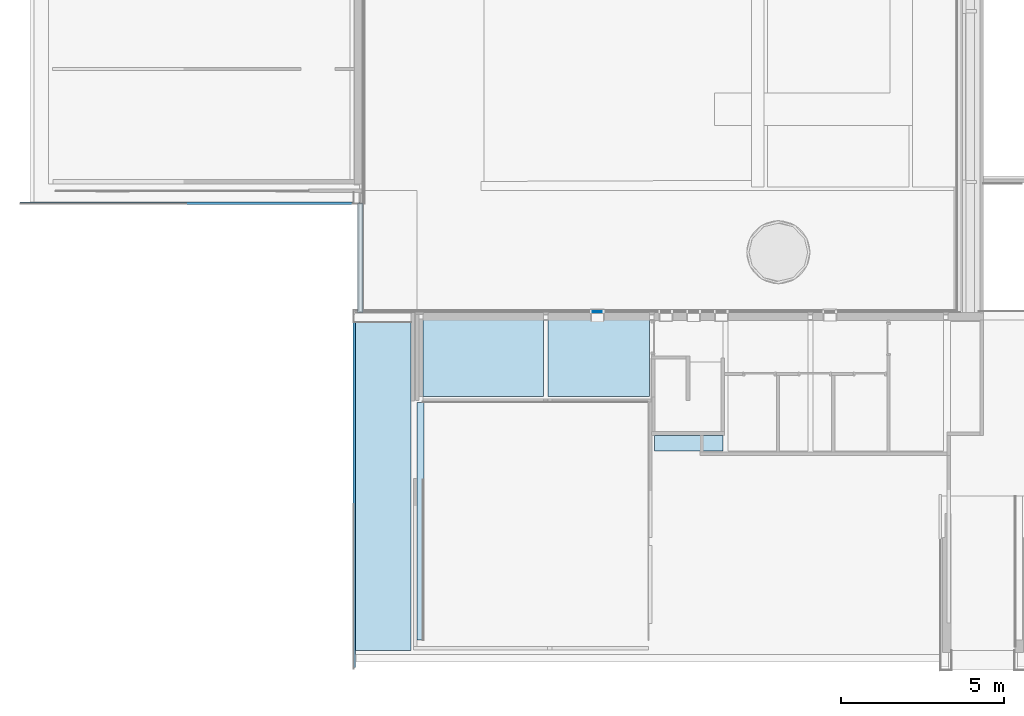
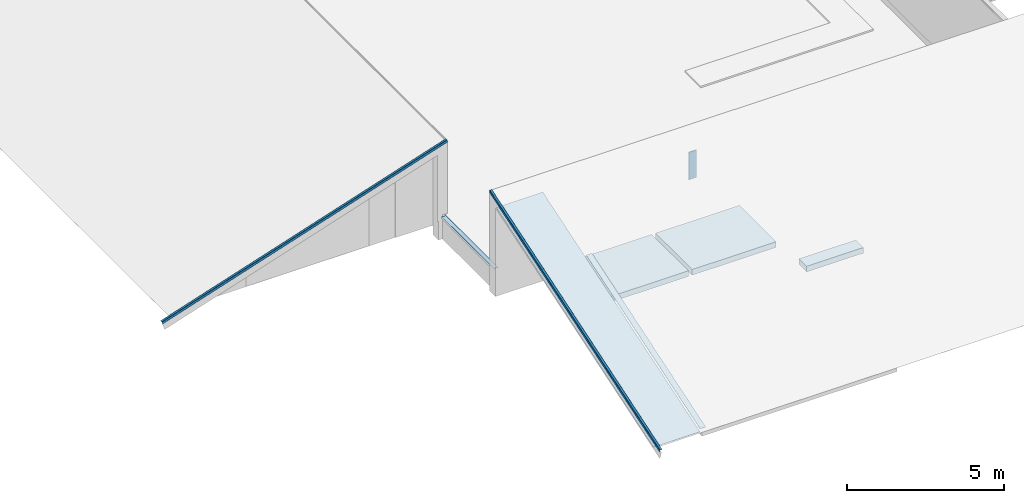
# One storey, part 9 of 66: 8 slabs, 1 plate, 5 elements without a shape of their own.
"""IFC2X3 building model written with IfcOpenShell, lengths in millimetres."""

import ifcopenshell
import ifcopenshell.guid

model = None  # the IFC model being written
_history = None  # IfcOwnerHistory: only IFC2X3 demands one
_inside = {}  # id of a spatial element -> (the spatial element, [elements in it])
_under = {}  # id of a project, library or spatial element -> (it, [spatial elements below it])
_declared = {}  # id of a project -> (the project, [libraries it declares])
_typed = {}  # id of a type object -> (the type object, [elements of that type])
_made_of = {}  # id of a material, layer set ... -> (it, [elements and type objects made of it])


def new_model(schema):
    """Start an empty IFC model of exactly this schema.

    Asked for "IFC4X3", IfcOpenShell would pick the latest addendum, in which some entities
    have other attributes; the version numbers below select the first issue.
    IFC2X3 requires an IfcOwnerHistory on every rooted entity: one is made here for all.
    """
    global model, _history
    if schema == "IFC4X3":
        model = ifcopenshell.file(schema_version=(4, 3, 0, 0))
    else:
        model = ifcopenshell.file(schema=schema)
    _inside.clear()
    _under.clear()
    _declared.clear()
    _typed.clear()
    _made_of.clear()
    _history = None
    if model.schema == "IFC2X3":
        org = make("IfcOrganization", Name="unknown")
        user = make(
            "IfcPersonAndOrganization",
            ThePerson=make("IfcPerson", FamilyName="unknown"),
            TheOrganization=org,
        )
        app = make(
            "IfcApplication",
            ApplicationDeveloper=org,
            Version="unknown",
            ApplicationFullName="unknown",
            ApplicationIdentifier="unknown",
        )
        _history = make(
            "IfcOwnerHistory",
            OwningUser=user,
            OwningApplication=app,
            ChangeAction="ADDED",
            CreationDate=0,
        )
    return model


def make(cls, **values):
    """One entity of the class cls with the attributes given. An attribute that is None is left unset."""
    return model.create_entity(
        cls, **{name: value for name, value in values.items() if value is not None}
    )


def entity(cls, *values):
    """Any entity or typed value of the class cls, its attributes in the order of the schema. None: left unset."""
    e = model.create_entity(cls)
    for i, value in enumerate(values):
        if value is not None:
            e[i] = value
    return e


def rooted(cls, **values):
    """An entity with a GlobalId (a new one), such as an element, a storey or a relation."""
    return make(cls, GlobalId=ifcopenshell.guid.new(), OwnerHistory=_history, **values)


def si_unit(unit_type, name, prefix=None):
    """IfcSIUnit, for example si_unit("LENGTHUNIT", "METRE", prefix="MILLI")."""
    return make("IfcSIUnit", UnitType=unit_type, Prefix=prefix, Name=name)


def converted_unit(unit_type, name, factor, base, dimensions=None, offset=None):
    """IfcConversionBasedUnit, such as the inch: factor (a typed value) times the base unit."""
    return make(
        "IfcConversionBasedUnit"
        if offset is None
        else "IfcConversionBasedUnitWithOffset",
        ConversionOffset=offset,
        Dimensions=None
        if dimensions is None
        else entity("IfcDimensionalExponents", *dimensions),
        UnitType=unit_type,
        Name=name,
        ConversionFactor=make(
            "IfcMeasureWithUnit", ValueComponent=factor, UnitComponent=base
        ),
    )


def derived_unit(unit_type, elements):
    """IfcDerivedUnit: a product of units, each with its exponent."""
    return make(
        "IfcDerivedUnit",
        Elements=[
            make("IfcDerivedUnitElement", Unit=unit, Exponent=power)
            for unit, power in elements
        ],
        UnitType=unit_type,
    )


def assignment(units):
    """IfcUnitAssignment: the units of a project."""
    return None if units is None else make("IfcUnitAssignment", Units=units)


def point(xyz):
    """IfcCartesianPoint."""
    return None if xyz is None else make("IfcCartesianPoint", Coordinates=xyz)


def direction(xyz):
    """IfcDirection."""
    return None if xyz is None else make("IfcDirection", DirectionRatios=xyz)


def frame(location, z_axis=None, x_axis=None):
    """IfcAxis2Placement3D, a coordinate frame: its origin and axes. An axis left out is left unset."""
    return make(
        "IfcAxis2Placement3D",
        Location=point(location),
        Axis=direction(z_axis),
        RefDirection=direction(x_axis),
    )


def frame_2d(location, x_axis=None):
    """IfcAxis2Placement2D, a coordinate frame in the plane: its origin and x axis."""
    return make(
        "IfcAxis2Placement2D", Location=point(location), RefDirection=direction(x_axis)
    )


def origin():
    """The frame at (0, 0, 0) with its axes left unset."""
    return frame((0.0, 0.0, 0.0))


def origin_2d_with_axis():
    """The frame at (0, 0) in the plane with the x axis (1, 0) written out."""
    return frame_2d((0.0, 0.0), x_axis=(1.0, 0.0))


def place(relative_to, where):
    """IfcLocalPlacement: puts the frame where relative to a parent placement (None: the world)."""
    return make(
        "IfcLocalPlacement", PlacementRelTo=relative_to, RelativePlacement=where
    )


def context(
    kind, dimensions, precision=None, world=None, true_north=None, identifier=None
):
    """IfcGeometricRepresentationContext, for example the 3D "Model" context."""
    return make(
        "IfcGeometricRepresentationContext",
        ContextIdentifier=identifier,
        ContextType=kind,
        CoordinateSpaceDimension=dimensions,
        Precision=precision,
        WorldCoordinateSystem=world,
        TrueNorth=true_north,
    )


def subcontext(parent, identifier, kind, view, scale=None):
    """IfcGeometricRepresentationSubContext, for example "Body" below "Model"."""
    return make(
        "IfcGeometricRepresentationSubContext",
        ContextIdentifier=identifier,
        ContextType=kind,
        ParentContext=parent,
        TargetScale=scale,
        TargetView=view,
    )


def project(units=None, contexts=None):
    """IfcProject with its units and contexts."""
    return rooted(
        "IfcProject",
        Name="project",
        RepresentationContexts=contexts,
        UnitsInContext=assignment(units),
    )


def spatial(cls, under=None, at=None, **own):
    """A site, building, storey or space (cls), placed at a placement, below another one or the project."""
    s = rooted(cls, ObjectPlacement=at, **own)
    if under is not None:
        _under.setdefault(under.id(), (under, []))[1].append(s)
    return s


def polyline(points):
    """IfcPolyline through the points."""
    return make("IfcPolyline", Points=[point(p) for p in points])


def circle_curve(where, radius):
    """IfcCircle in the frame where."""
    return make("IfcCircle", Position=where, Radius=radius)


def parameter(value):
    """IfcParameterValue: where a trimmed curve begins or ends, as a parameter of its basis curve."""
    return model.create_entity("IfcParameterValue", value)


def trimmed(basis, trim1, trim2, sense, master):
    """IfcTrimmedCurve: the piece of a basis curve between two trims."""
    return make(
        "IfcTrimmedCurve",
        BasisCurve=basis,
        Trim1=trim1,
        Trim2=trim2,
        SenseAgreement=sense,
        MasterRepresentation=master,
    )


def segment(curve, same_sense, transition):
    """IfcCompositeCurveSegment."""
    return make(
        "IfcCompositeCurveSegment",
        Transition=transition,
        SameSense=same_sense,
        ParentCurve=curve,
    )


def composite_curve(segments, self_intersect=None):
    """IfcCompositeCurve: segments joined end to end."""
    return make("IfcCompositeCurve", Segments=segments, SelfIntersect=self_intersect)


def profile(cls, at=None, kind="AREA", **sizes):
    """A parametric profile (cls). Its sizes go by their IFC names, for example OverallWidth=200.0."""
    return make(cls, ProfileType=kind, Position=at, **sizes)


def rectangle(**sizes):
    """IfcRectangleProfileDef."""
    return profile("IfcRectangleProfileDef", **sizes)


def outline(outer, holes=None, kind="AREA"):
    """IfcArbitraryClosedProfileDef: a profile drawn as a closed curve; with holes, ...WithVoids."""
    if holes is None:
        return make("IfcArbitraryClosedProfileDef", ProfileType=kind, OuterCurve=outer)
    return make(
        "IfcArbitraryProfileDefWithVoids",
        ProfileType=kind,
        OuterCurve=outer,
        InnerCurves=holes,
    )


def extrude(swept, where, along, depth):
    """IfcExtrudedAreaSolid: the profile swept, set in the frame where, extruded along a direction by depth."""
    return make(
        "IfcExtrudedAreaSolid",
        SweptArea=swept,
        Position=where,
        ExtrudedDirection=direction(along),
        Depth=depth,
    )


def clip(a, b, op="DIFFERENCE"):
    """IfcBooleanClippingResult: the solid a cut by the half space b."""
    return make(
        "IfcBooleanClippingResult", Operator=op, FirstOperand=a, SecondOperand=b
    )


def halfspace(plane, agree):
    """IfcHalfSpaceSolid: all space on one side of the plane z = 0 of the frame plane."""
    return make(
        "IfcHalfSpaceSolid",
        BaseSurface=make("IfcPlane", Position=plane),
        AgreementFlag=agree,
    )


def shape(context_of_items, identifier, shape_type, items):
    """IfcShapeRepresentation: the items that make up one representation, for example the "Body"."""
    return make(
        "IfcShapeRepresentation",
        ContextOfItems=context_of_items,
        RepresentationIdentifier=identifier,
        RepresentationType=shape_type,
        Items=items,
    )


def source(mapping_origin, context_of_items, identifier, shape_type, items):
    """IfcRepresentationMap: a shape defined once, which mapped items show again and again."""
    return make(
        "IfcRepresentationMap",
        MappingOrigin=mapping_origin,
        MappedRepresentation=shape(context_of_items, identifier, shape_type, items),
    )


def transform(
    local_origin,
    x_axis=None,
    y_axis=None,
    z_axis=None,
    scale=None,
    scale2=None,
    scale3=None,
    uniform=True,
):
    """IfcCartesianTransformationOperator3D, or its non-uniform kind. x_axis, y_axis, z_axis: its Axis1, 2, 3."""
    if uniform:
        return make(
            "IfcCartesianTransformationOperator3D",
            Axis1=direction(x_axis),
            Axis2=direction(y_axis),
            LocalOrigin=point(local_origin),
            Scale=scale,
            Axis3=direction(z_axis),
        )
    return make(
        "IfcCartesianTransformationOperator3DnonUniform",
        Axis1=direction(x_axis),
        Axis2=direction(y_axis),
        LocalOrigin=point(local_origin),
        Scale=scale,
        Axis3=direction(z_axis),
        Scale2=scale2,
        Scale3=scale3,
    )


def mapped(mapping_source, mapping_target):
    """IfcMappedItem: shows the shape of a source again, moved by a transform."""
    return make(
        "IfcMappedItem", MappingSource=mapping_source, MappingTarget=mapping_target
    )


def material(Name=None, Category=None):
    """IfcMaterial."""
    return make("IfcMaterial", Name=Name, Category=Category)


def material_list(materials):
    """IfcMaterialList."""
    return make("IfcMaterialList", Materials=materials)


def layer(
    of_material, thickness, ventilated=None, Name=None, Category=None, Priority=None
):
    """IfcMaterialLayer: one layer of a wall or slab, of a material (None: an air gap)."""
    return make(
        "IfcMaterialLayer",
        Material=of_material,
        LayerThickness=thickness,
        IsVentilated=ventilated,
        Name=Name,
        Category=Category,
        Priority=Priority,
    )


def layer_set(layers, Name=None):
    """IfcMaterialLayerSet."""
    return make("IfcMaterialLayerSet", MaterialLayers=layers, LayerSetName=Name)


def layer_usage(for_layer_set, set_direction, sense, offset, extent=None):
    """IfcMaterialLayerSetUsage: how a layer set lies in its element."""
    return make(
        "IfcMaterialLayerSetUsage",
        ForLayerSet=for_layer_set,
        LayerSetDirection=set_direction,
        DirectionSense=sense,
        OffsetFromReferenceLine=offset,
        ReferenceExtent=extent,
    )


def made_of(thing, what):
    """Note that an element or type object is made of a material, layer set ...; save() writes the relation."""
    if what is not None:
        _made_of.setdefault(what.id(), (what, []))[1].append(thing)
    return thing


def type_object(cls, material=None, **own):
    """A type object (cls), such as IfcWallType, which elements share."""
    return made_of(rooted(cls, **own), material)


def type_shapes(of_type, sources):
    """Give a type object the sources (RepresentationMaps) that its elements show as mapped items."""
    of_type.RepresentationMaps = sources


def element(
    cls,
    number,
    at=None,
    inside=None,
    cuts=None,
    type_object=None,
    material=None,
    context=None,
    identifier="Body",
    shape_type=None,
    held_by="IfcProductDefinitionShape",
    body=None,
    shapes=None,
    **own,
):
    """One element of the class cls, such as IfcWall. Its Tag is "e" and its number.

    at: its placement. inside: the storey or other place that contains it. cuts: it is an
    opening in that element (IfcRelVoidsElement). A single representation is given by context,
    identifier, shape_type and body (its items); several are given by shapes. held_by: the class
    of the entity that holds the representations. save() writes the other relations.
    """
    e = rooted(cls, Tag="e%d" % number, ObjectPlacement=at, **own)
    if body is not None:
        shapes = [shape(context, identifier, shape_type, body)]
    if shapes is not None:
        e.Representation = make(held_by, Representations=shapes)
    if inside is not None:
        _inside.setdefault(inside.id(), (inside, []))[1].append(e)
    if cuts is not None:
        rooted(
            "IfcRelVoidsElement", RelatingBuildingElement=cuts, RelatedOpeningElement=e
        )
    if type_object is not None:
        _typed.setdefault(type_object.id(), (type_object, []))[1].append(e)
    return made_of(e, material)


def aggregate(whole, parts):
    """IfcRelAggregates: a whole, such as a stair, and the parts it consists of."""
    return rooted("IfcRelAggregates", RelatingObject=whole, RelatedObjects=parts)


def save(model, path):
    """Write the relations noted so far, then the file.

    IfcRelAggregates (storeys below a building ...), IfcRelContainedInSpatialStructure (elements
    in a storey), IfcRelDefinesByType, IfcRelAssociatesMaterial and IfcRelDeclares: one each for
    every whole, place, type object, material and project.
    """
    for whole, parts in _under.values():
        aggregate(whole, parts)
    for where, things in _inside.values():
        rooted(
            "IfcRelContainedInSpatialStructure",
            RelatedElements=things,
            RelatingStructure=where,
        )
    for kind, things in _typed.values():
        rooted("IfcRelDefinesByType", RelatedObjects=things, RelatingType=kind)
    for what, things in _made_of.values():
        rooted("IfcRelAssociatesMaterial", RelatedObjects=things, RelatingMaterial=what)
    for by, libraries in _declared.values():
        rooted("IfcRelDeclares", RelatingContext=by, RelatedDefinitions=libraries)
    model.write(path)


model = new_model("IFC2X3")

# Units and contexts
model_context = context("Model", 3, precision=0.01, world=origin(), true_north=direction((6.12303176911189e-17, 1.0)))
body_context = subcontext(model_context, "Body", "Model", "MODEL_VIEW")
ifc_project = project(units=[si_unit("LENGTHUNIT", "METRE", prefix="MILLI"), si_unit("AREAUNIT", "SQUARE_METRE"), si_unit("VOLUMEUNIT", "CUBIC_METRE"), converted_unit("PLANEANGLEUNIT", "DEGREE", entity("IfcRatioMeasure", 0.0174532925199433), si_unit("PLANEANGLEUNIT", "RADIAN"), dimensions=[0, 0, 0, 0, 0, 0, 0]), si_unit("MASSUNIT", "GRAM", prefix="KILO"), derived_unit("MASSDENSITYUNIT", [(si_unit("MASSUNIT", "GRAM", prefix="KILO"), 1), (si_unit("LENGTHUNIT", "METRE"), -3)]), derived_unit("MOMENTOFINERTIAUNIT", [(si_unit("LENGTHUNIT", "METRE"), 4)]), si_unit("TIMEUNIT", "SECOND"), si_unit("FREQUENCYUNIT", "HERTZ"), si_unit("THERMODYNAMICTEMPERATUREUNIT", "DEGREE_CELSIUS"), derived_unit("THERMALTRANSMITTANCEUNIT", [(si_unit("MASSUNIT", "GRAM", prefix="KILO"), 1), (si_unit("THERMODYNAMICTEMPERATUREUNIT", "KELVIN"), -1), (si_unit("TIMEUNIT", "SECOND"), -3)]), derived_unit("VOLUMETRICFLOWRATEUNIT", [(si_unit("LENGTHUNIT", "METRE"), 3), (si_unit("TIMEUNIT", "SECOND"), -1)]), si_unit("ELECTRICCURRENTUNIT", "AMPERE"), si_unit("ELECTRICVOLTAGEUNIT", "VOLT"), si_unit("POWERUNIT", "WATT"), si_unit("FORCEUNIT", "NEWTON", prefix="KILO"), si_unit("ILLUMINANCEUNIT", "LUX"), si_unit("LUMINOUSFLUXUNIT", "LUMEN"), si_unit("LUMINOUSINTENSITYUNIT", "CANDELA"), derived_unit("USERDEFINED", [(si_unit("MASSUNIT", "GRAM", prefix="KILO"), -1), (si_unit("LENGTHUNIT", "METRE"), -2), (si_unit("TIMEUNIT", "SECOND"), 3), (si_unit("LUMINOUSFLUXUNIT", "LUMEN"), 1)]), derived_unit("LINEARVELOCITYUNIT", [(si_unit("LENGTHUNIT", "METRE"), 1), (si_unit("TIMEUNIT", "SECOND"), -1)]), si_unit("PRESSUREUNIT", "PASCAL"), derived_unit("USERDEFINED", [(si_unit("LENGTHUNIT", "METRE"), -2), (si_unit("MASSUNIT", "GRAM", prefix="KILO"), 1), (si_unit("TIMEUNIT", "SECOND"), -2)]), derived_unit("LINEARFORCEUNIT", [(si_unit("MASSUNIT", "GRAM", prefix="KILO"), 1), (si_unit("LENGTHUNIT", "METRE"), 1), (si_unit("TIMEUNIT", "SECOND"), -2), (si_unit("LENGTHUNIT", "METRE"), -1)]), derived_unit("PLANARFORCEUNIT", [(si_unit("MASSUNIT", "GRAM", prefix="KILO"), 1), (si_unit("LENGTHUNIT", "METRE"), 1), (si_unit("TIMEUNIT", "SECOND"), -2), (si_unit("LENGTHUNIT", "METRE"), -2)])], contexts=[model_context])

# Site, building, storey
site_placement = place(None, origin())
site = spatial("IfcSite", under=ifc_project, at=site_placement, Name="Default", CompositionType="ELEMENT")
building_placement = place(site_placement, origin())
building = spatial("IfcBuilding", under=site, at=building_placement, Name="-", CompositionType="ELEMENT")
storey_placement = place(building_placement, frame((0.0, 0.0, 3070.0)))
storey = spatial("IfcBuildingStorey", under=building, at=storey_placement, Name="01 eerste verdieping", CompositionType="ELEMENT", Elevation=3070.00000000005)

# Curtain wall, plate
curtain_wall_type = type_object("IfcCurtainWallType", Name="Curtain Wall:NLRS_31_WIN_UN_houten kozijn vrij indeelbaar_gen_aly", PredefinedType="NOTDEFINED")
curtain_wall_placement = place(storey_placement, frame((0.0, 0.0, -3070.0)))
curtain_wall = element("IfcCurtainWall", 1, at=curtain_wall_placement, inside=storey, type_object=curtain_wall_type, Name="Curtain Wall:NLRS_31_WIN_UN_houten kozijn vrij indeelbaar_gen_aly", ObjectType="Curtain Wall:NLRS_31_WIN_UN_houten kozijn vrij indeelbaar_gen_aly")
ifc_material_1 = material(Name="NLRS_o5_glas")
plate_type = type_object("IfcPlateType", Name="System Panel:31_Geïsoleerd glas 25mm", PredefinedType="CURTAIN_PANEL", material=ifc_material_1)
shared_shape = source(origin(), body_context, "Body", "SweptSolid", [
    extrude(rectangle(XDim=25.0, YDim=278.000000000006, at=origin_2d_with_axis()), frame((0.0, 0.0, 0.0), z_axis=(0.0, 0.0, 1.0), x_axis=(0.0, 1.0, 0.0)), (0.0, 0.0, 1.0), 1077.00000000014),
])
type_shapes(plate_type, [shared_shape])
plate_placement = place(curtain_wall_placement, frame((16965.0, 10417.1240954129, 4497.0)))
plate = element("IfcPlate", 2, at=plate_placement, type_object=plate_type, material=ifc_material_1, Name="System Panel:31_Geïsoleerd glas 25mm", ObjectType="System Panel:31_Geïsoleerd glas 25mm", context=body_context, shape_type="MappedRepresentation", body=[
    mapped(shared_shape, transform((0.0, 0.0, 0.0), scale=1.0)),
])
aggregate(curtain_wall, [plate])

# Slabs
ifc_material_2 = material(Name="NLRS_i2_hout naaldhout vuren_gen")
ifc_layer_1 = layer(ifc_material_2, 221.0)
ifc_layer_set_1 = layer_set([ifc_layer_1], Name="Floor:NLRS_23_FL_Houten balk laag 221mm")
ifc_layer_usage_1 = layer_usage(ifc_layer_set_1, "AXIS3", "POSITIVE", 0.0)
slab_type_1 = type_object("IfcSlabType", Name="Floor:NLRS_23_FL_Houten balk laag 221mm", PredefinedType="FLOOR", material=ifc_layer_set_1)
slab_1_placement = place(storey_placement, origin())
element("IfcSlab", 3, at=slab_1_placement, inside=storey, type_object=slab_type_1, material=ifc_layer_usage_1, Name="Floor:NLRS_23_FL_Houten balk laag 221mm", ObjectType="Floor:NLRS_23_FL_Houten balk laag 221mm", PredefinedType="FLOOR", context=body_context, shape_type="SweptSolid", body=[
    extrude(rectangle(XDim=2343.20603185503, YDim=3690.0444211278, at=frame_2d((-1.13686837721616e-12, 0.0), x_axis=(1.0, 0.0))), frame((13471.5326393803, 8992.02107947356, -18.0), z_axis=(0.0, 0.0, -1.0), x_axis=(0.0, 1.0, 0.0)), (0.0, 0.0, 1.0), 221.0),
])
ifc_layer_usage_2 = layer_usage(ifc_layer_set_1, "AXIS3", "POSITIVE", 0.0)
slab_type_2 = type_object("IfcSlabType", Name="Floor:NLRS_23_FL_Houten balk laag 221mm", PredefinedType="FLOOR", material=ifc_layer_set_1)
slab_2_placement = place(storey_placement, origin())
element("IfcSlab", 4, at=slab_2_placement, inside=storey, type_object=slab_type_2, material=ifc_layer_usage_2, Name="Floor:NLRS_23_FL_Houten balk laag 221mm", ObjectType="Floor:NLRS_23_FL_Houten balk laag 221mm", PredefinedType="FLOOR", context=body_context, shape_type="SweptSolid", body=[
    extrude(rectangle(XDim=2343.20603185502, YDim=3096.13998439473, at=frame_2d((0.0, -1.13686837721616e-12), x_axis=(1.0, 0.0))), frame((17004.6248421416, 8992.02107947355, -18.0), z_axis=(0.0, 0.0, -1.0), x_axis=(0.0, 1.0, 0.0)), (0.0, 0.0, 1.0), 221.0),
])
ifc_layer_usage_3 = layer_usage(ifc_layer_set_1, "AXIS3", "POSITIVE", 0.0)
slab_type_3 = type_object("IfcSlabType", Name="Floor:NLRS_23_FL_Houten balk laag 221mm", PredefinedType="FLOOR", material=ifc_layer_set_1)
slab_3_placement = place(storey_placement, origin())
element("IfcSlab", 5, at=slab_3_placement, inside=storey, type_object=slab_type_3, material=ifc_layer_usage_3, Name="Floor:NLRS_23_FL_Houten balk laag 221mm", ObjectType="Floor:NLRS_23_FL_Houten balk laag 221mm", PredefinedType="FLOOR", context=body_context, shape_type="SweptSolid", body=[
    extrude(rectangle(XDim=488.562482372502, YDim=2093.49999999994, at=frame_2d((0.0, -3.18323145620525e-12), x_axis=(1.0, 0.0))), frame((19758.444834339, 6392.44712110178, -18.0), z_axis=(0.0, 0.0, -1.0), x_axis=(0.0, 1.0, 0.0)), (0.0, 0.0, 1.0), 221.0),
])

# Roof, slab
ifc_material_3 = material(Name="AL_Aluminium")
ifc_material_4 = material(Name="AL_31_Naaldhout (vuren)")
ifc_material_5 = material(Name="h7_zink zwart")
ifc_material_list_1 = material_list([ifc_material_3, ifc_material_4, ifc_material_5])
roof_1_placement = place(storey_placement, origin())
roof_1 = element("IfcRoof", 6, at=roof_1_placement, inside=storey, material=ifc_material_list_1, Name="Dakrand zijkant dak1:Dakrand zijkant dak", ObjectType="Dakrand zijkant dak1:Dakrand zijkant dak", ShapeType="NOTDEFINED")
ifc_material_list_2 = material_list([ifc_material_3, ifc_material_4, ifc_material_5])
slab_type_4 = type_object("IfcSlabType", Name="Dakrand zijkant dak1:Dakrand zijkant dak", PredefinedType="ROOF")
slab_4_placement = place(storey_placement, origin())
slab_4 = element("IfcSlab", 7, at=slab_4_placement, type_object=slab_type_4, material=ifc_material_list_2, Name="Dakrand zijkant dak1:Dakrand zijkant dak:1", ObjectType="Dakrand zijkant dak1:Dakrand zijkant dak", PredefinedType="ROOF", context=body_context, shape_type="SweptSolid", body=[
    extrude(outline(composite_curve([segment(polyline([(36.5513412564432, -17.7650850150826), (-36.5513412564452, -17.7650850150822)]), True, "CONTINUOUS"), segment(trimmed(circle_curve(frame_2d((-36.5513412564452, -15.7650850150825), x_axis=(-1.0, 0.0)), 1.99999999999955), [parameter(4.57999874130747e-13)], [parameter(90.0)], True, "PARAMETER"), False, "CONTINUOUS"), segment(polyline([(-38.5513412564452, -15.7650850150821), (-38.5513412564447, 68.3434682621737)]), True, "CONTINUOUS"), segment(polyline([(-38.5513412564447, 68.3434682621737), (-39.5513412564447, 68.3434682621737)]), True, "CONTINUOUS"), segment(polyline([(-39.5513412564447, 68.3434682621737), (-39.5513412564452, -15.7650850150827)]), True, "CONTINUOUS"), segment(trimmed(circle_curve(frame_2d((-36.5513412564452, -15.7650850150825), x_axis=(-1.0, 0.0)), 2.99999999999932), [parameter(3.05333249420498e-13)], [parameter(90.0)], True, "PARAMETER"), True, "CONTINUOUS"), segment(polyline([(-36.5513412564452, -18.765085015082), (36.5513412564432, -18.7650850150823)]), True, "CONTINUOUS"), segment(trimmed(circle_curve(frame_2d((36.5513412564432, -15.7650850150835), x_axis=(1.0, 0.0)), 2.99999999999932), [parameter(270.0)], [parameter(1.01777749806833e-13)], True, "PARAMETER"), True, "CONTINUOUS"), segment(polyline([(39.5513412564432, -15.7650850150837), (39.5513412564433, -0.28312820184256)]), True, "CONTINUOUS"), segment(polyline([(39.5513412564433, -0.28312820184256), (38.5513412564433, -0.283128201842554)]), True, "CONTINUOUS"), segment(polyline([(38.5513412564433, -0.283128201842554), (38.5513412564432, -15.7650850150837)]), True, "CONTINUOUS"), segment(trimmed(circle_curve(frame_2d((36.5513412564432, -15.7650850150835), x_axis=(1.0, 0.0)), 1.99999999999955), [parameter(270.0)], [parameter(3.05333249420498e-13)], True, "PARAMETER"), False, "CONTINUOUS")], self_intersect=False)), frame((-521.517118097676, 13740.3971902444, 71.1738627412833), z_axis=(-0.951056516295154, 0.0, -0.309016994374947), x_axis=(0.0, 1.0, 0.0)), (0.0, 0.0, -1.0), 10840.0),
    extrude(rectangle(XDim=37.9999999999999, YDim=57.9999999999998, at=frame_2d((2.89546164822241e-13, 0.0), x_axis=(1.0, 0.0))), frame((-516.071208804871, 13739.8169709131, 70.5934172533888), z_axis=(0.951056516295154, 0.0, 0.309016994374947), x_axis=(-0.309016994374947, 0.0, 0.951056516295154)), (0.0, 0.0, 1.0), 10835.0),
    extrude(outline(composite_curve([segment(polyline([(-63.3639587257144, -41.688415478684), (-55.4151697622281, -28.9676940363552)]), True, "CONTINUOUS"), segment(polyline([(-55.4151697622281, -28.9676940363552), (-56.2632178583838, -28.4377747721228)]), True, "CONTINUOUS"), segment(polyline([(-56.263217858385, -28.4377747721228), (-65.1680064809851, -42.688415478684)]), True, "CONTINUOUS"), segment(polyline([(-65.1680064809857, -42.688415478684), (25.5217171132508, -42.688415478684)]), True, "CONTINUOUS"), segment(trimmed(circle_curve(frame_2d((25.5217171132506, -39.688415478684), x_axis=(0.0, -1.0)), 2.99999999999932), [parameter(360.0)], [parameter(90.0)], True, "PARAMETER"), True, "CONTINUOUS"), segment(polyline([(28.5217171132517, -39.688415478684), (28.5217171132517, 37.4142670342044)]), True, "CONTINUOUS"), segment(trimmed(circle_curve(frame_2d((25.5217171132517, 37.4142670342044), x_axis=(0.0, 1.0)), 2.99999999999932), [parameter(270.0)], [parameter(360.0)], True, "PARAMETER"), True, "CONTINUOUS"), segment(polyline([(25.5217171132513, 40.4142670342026), (3.10750355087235, 40.4142670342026)]), True, "CONTINUOUS"), segment(polyline([(3.1075035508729, 40.4142670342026), (8.35014423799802, 35.1716263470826)]), True, "CONTINUOUS"), segment(polyline([(8.35014423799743, 35.1716263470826), (9.05725101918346, 35.8787331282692)]), True, "CONTINUOUS"), segment(polyline([(9.05725101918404, 35.8787331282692), (5.52171711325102, 39.4142670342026)]), True, "CONTINUOUS"), segment(polyline([(5.52171711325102, 39.4142670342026), (25.5217171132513, 39.4142670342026)]), True, "CONTINUOUS"), segment(trimmed(circle_curve(frame_2d((25.5217171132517, 37.4142670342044), x_axis=(0.0, 1.0)), 1.99999999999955), [parameter(270.0)], [parameter(360.0)], True, "PARAMETER"), False, "CONTINUOUS"), segment(polyline([(27.521717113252, 37.4142670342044), (27.521717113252, -39.688415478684)]), True, "CONTINUOUS"), segment(trimmed(circle_curve(frame_2d((25.5217171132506, -39.688415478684), x_axis=(0.0, -1.0)), 1.99999999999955), [parameter(360.0)], [parameter(90.0)], True, "PARAMETER"), False, "CONTINUOUS"), segment(polyline([(25.5217171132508, -41.688415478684), (-63.3639587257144, -41.688415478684)]), True, "CONTINUOUS")], self_intersect=False)), frame((-699.820925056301, 13741.5342644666, 5.08363830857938), z_axis=(-0.951056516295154, 0.0, -0.309016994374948), x_axis=(-0.309016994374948, 0.0, 0.951056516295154)), (0.0, 0.0, -1.0), 11060.0),
])
aggregate(roof_1, [slab_4])

ifc_material_list_3 = material_list([ifc_material_5, ifc_material_4, ifc_material_3])
roof_2_placement = place(storey_placement, origin())
roof_2 = element("IfcRoof", 8, at=roof_2_placement, inside=storey, material=ifc_material_list_3, Name="Dakrand zijkant dak2:Dakrand zijkant dak", ObjectType="Dakrand zijkant dak2:Dakrand zijkant dak", ShapeType="NOTDEFINED")
ifc_material_list_4 = material_list([ifc_material_5, ifc_material_4, ifc_material_3])
slab_type_5 = type_object("IfcSlabType", Name="Dakrand zijkant dak2:Dakrand zijkant dak", PredefinedType="ROOF")
slab_5_placement = place(storey_placement, origin())
slab_5 = element("IfcSlab", 9, at=slab_5_placement, type_object=slab_type_5, material=ifc_material_list_4, Name="Dakrand zijkant dak2:Dakrand zijkant dak:1", ObjectType="Dakrand zijkant dak2:Dakrand zijkant dak", PredefinedType="ROOF", context=body_context, shape_type="SweptSolid", body=[
    extrude(outline(composite_curve([segment(polyline([(-68.93156376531, 31.6441901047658), (-53.9315637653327, 31.6441901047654)]), True, "CONTINUOUS"), segment(polyline([(-53.9315637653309, 31.6441901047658), (-53.9315637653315, 32.6441901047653)]), True, "CONTINUOUS"), segment(polyline([(-53.9315637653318, 32.6441901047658), (-70.7356115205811, 32.6441901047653)]), True, "CONTINUOUS"), segment(polyline([(-70.7356115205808, 32.6441901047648), (-22.6773799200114, -44.2650573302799)]), True, "CONTINUOUS"), segment(trimmed(circle_curve(frame_2d((-20.1332356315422, -42.6752995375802), x_axis=(-0.848048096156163, -0.529919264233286)), 2.99999999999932), [parameter(360.0)], [parameter(90.0000000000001)], True, "PARAMETER"), True, "CONTINUOUS"), segment(polyline([(-18.5434778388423, -45.21944382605), (46.843305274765, -4.36124703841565)]), True, "CONTINUOUS"), segment(trimmed(circle_curve(frame_2d((45.2535474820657, -1.8171027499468), x_axis=(0.848048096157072, 0.529919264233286)), 2.99999999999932), [parameter(270.0)], [parameter(360.0)], True, "PARAMETER"), True, "CONTINUOUS"), segment(polyline([(47.7976917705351, -0.227344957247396), (35.9199682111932, 18.7809861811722)]), True, "CONTINUOUS"), segment(polyline([(35.9199682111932, 18.7809861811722), (34.2521330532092, 11.5567984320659)]), True, "CONTINUOUS"), segment(polyline([(34.2521330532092, 11.5567984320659), (35.2265031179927, 11.3318473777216)]), True, "CONTINUOUS"), segment(polyline([(35.226503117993, 11.3318473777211), (36.3512583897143, 16.2036977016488)]), True, "CONTINUOUS"), segment(polyline([(36.3512583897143, 16.2036977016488), (46.9496436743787, -0.75726422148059)]), True, "CONTINUOUS"), segment(trimmed(circle_curve(frame_2d((45.2535474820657, -1.81710274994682), x_axis=(0.848048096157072, 0.529919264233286)), 1.99999999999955), [parameter(270.0)], [parameter(360.0)], True, "PARAMETER"), False, "CONTINUOUS"), segment(polyline([(46.3133860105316, -3.51319894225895), (-19.0733971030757, -44.3713957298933)]), True, "CONTINUOUS"), segment(trimmed(circle_curve(frame_2d((-20.1332356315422, -42.6752995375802), x_axis=(-0.848048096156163, -0.529919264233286)), 1.99999999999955), [parameter(359.999999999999)], [parameter(90.0000000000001)], True, "PARAMETER"), False, "CONTINUOUS"), segment(polyline([(-21.8293318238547, -43.7351380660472), (-68.93156376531, 31.6441901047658)]), True, "CONTINUOUS")], self_intersect=False)), frame((9526.4377747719, -457.436322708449, 27.0347091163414), z_axis=(0.0, 0.951056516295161, 0.309016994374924), x_axis=(0.848048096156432, -0.163754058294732, 0.503983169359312)), (0.0, 0.0, 1.0), 11440.0),
    extrude(rectangle(XDim=38.0, YDim=11240.0, at=frame_2d((4.54747350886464e-13, -8.11795075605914e-13), x_axis=(0.0, 1.0))), frame((9495.72048121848, 5085.51686286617, 1833.85525136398), z_axis=(1.0, 0.0, 0.0), x_axis=(0.0, 0.951056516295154, 0.309016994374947)), (0.0, 0.0, 1.0), 57.9999999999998),
    extrude(outline(composite_curve([segment(trimmed(circle_curve(frame_2d((-36.5513412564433, -15.7650850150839), x_axis=(-1.0, 0.0)), 1.99999999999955), [parameter(359.999999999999)], [parameter(90.0000000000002)], True, "PARAMETER"), False, "CONTINUOUS"), segment(polyline([(-38.5513412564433, -15.7650850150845), (-38.5513412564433, -0.283128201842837)]), True, "CONTINUOUS"), segment(polyline([(-38.5513412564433, -0.283128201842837), (-39.5513412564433, -0.283128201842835)]), True, "CONTINUOUS"), segment(polyline([(-39.5513412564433, -0.283128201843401), (-39.5513412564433, -15.7650850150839)]), True, "CONTINUOUS"), segment(trimmed(circle_curve(frame_2d((-36.5513412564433, -15.7650850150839), x_axis=(-1.0, 0.0)), 2.99999999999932), [parameter(360.0)], [parameter(90.0000000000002)], True, "PARAMETER"), True, "CONTINUOUS"), segment(polyline([(-36.5513412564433, -18.7650850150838), (36.551341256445, -18.7650850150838)]), True, "CONTINUOUS"), segment(trimmed(circle_curve(frame_2d((36.551341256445, -15.7650850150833), x_axis=(1.0, 0.0)), 2.99999999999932), [parameter(270.0)], [parameter(360.0)], True, "PARAMETER"), True, "CONTINUOUS"), segment(polyline([(39.551341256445, -15.7650850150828), (39.5513412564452, 68.3434682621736)]), True, "CONTINUOUS"), segment(polyline([(39.5513412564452, 68.343468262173), (38.5513412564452, 68.343468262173)]), True, "CONTINUOUS"), segment(polyline([(38.5513412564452, 68.343468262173), (38.551341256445, -15.7650850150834)]), True, "CONTINUOUS"), segment(trimmed(circle_curve(frame_2d((36.551341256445, -15.7650850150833), x_axis=(1.0, 0.0)), 1.99999999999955), [parameter(270.0)], [parameter(360.0)], True, "PARAMETER"), False, "CONTINUOUS"), segment(polyline([(36.551341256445, -17.765085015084), (-36.5513412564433, -17.765085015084)]), True, "CONTINUOUS")], self_intersect=False)), frame((9525.30070054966, -260.111385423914, 99.3052734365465), z_axis=(0.0, -0.951056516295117, -0.30901699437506), x_axis=(-1.0, 0.0, 0.0)), (0.0, 0.0, -1.0), 11235.0),
])
aggregate(roof_2, [slab_5])

# Slab
ifc_material_6 = material(Name="NLRS_n2_bitumen_dak bedekking")
ifc_layer_2 = layer(ifc_material_6, 6.0)
ifc_layer_set_2 = layer_set([ifc_layer_2], Name="Floor:NLRS_23_FL_Bitumen dakbedekking")
ifc_layer_usage_4 = layer_usage(ifc_layer_set_2, "AXIS3", "POSITIVE", 0.0)
slab_type_6 = type_object("IfcSlabType", Name="Floor:NLRS_23_FL_Bitumen dakbedekking", PredefinedType="FLOOR", material=ifc_layer_set_2)
slab_6_placement = place(storey_placement, origin())
element("IfcSlab", 10, at=slab_6_placement, inside=storey, type_object=slab_type_6, material=ifc_layer_usage_4, Name="Floor:NLRS_23_FL_Bitumen dakbedekking", ObjectType="Floor:NLRS_23_FL_Bitumen dakbedekking", PredefinedType="FLOOR", context=body_context, shape_type="Clipping", body=[
    clip(clip(extrude(rectangle(XDim=159.099735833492, YDim=3333.19287551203, at=frame_2d((0.0, 5.40012479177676e-13), x_axis=(0.0, 1.0))), frame((9706.60742172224, 12062.2205331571, 495.100000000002), z_axis=(-0.0628536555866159, 0.0, -0.9980227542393), x_axis=(0.0, 1.0, 0.0)), (0.0, 0.0628536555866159, 0.9980227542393), 6.01188697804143), halfspace(frame((9706.60742172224, 12062.2205331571, 489.100000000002), z_axis=(-0.0628536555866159, 0.0, -0.9980227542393), x_axis=(0.9980227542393, 0.0, -0.0628536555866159)), False)), halfspace(frame((9706.60742172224, 12062.2205331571, 495.100000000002), z_axis=(0.0628536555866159, 0.0, 0.9980227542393), x_axis=(0.9980227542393, 0.0, -0.0628536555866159)), False)),
])

# Covering, slab
covering_1_placement = place(storey_placement, frame((11445.5104288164, 369.02933412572, -315.385458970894)))
covering_1 = element("IfcCovering", 11, at=covering_1_placement, inside=storey, Name="Basic Roof:NLRS_47_Trespa 10mm RAL 9002", ObjectType="Basic Roof:NLRS_47_Trespa 10mm RAL 9002", PredefinedType="NOTDEFINED")
slab_type_7 = type_object("IfcSlabType", Name="Basic Roof:NLRS_47_Trespa 10mm RAL 9002", PredefinedType="ROOF")
slab_7_placement = place(covering_1_placement, origin())
slab_7 = element("IfcSlab", 12, at=slab_7_placement, type_object=slab_type_7, Name="Basic Roof:NLRS_47_Trespa 10mm RAL 9002", ObjectType="Basic Roof:NLRS_47_Trespa 10mm RAL 9002", PredefinedType="NOTDEFINED", context=body_context, shape_type="SweptSolid", body=[
    extrude(rectangle(XDim=210.0, YDim=7652.42507119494, at=frame_2d((0.0, 1.81898940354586e-12), x_axis=(1.0, 0.0))), frame((105.0, 3638.94436471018, 1182.36469759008), z_axis=(0.0, -0.309016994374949, 0.951056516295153), x_axis=(1.0, 0.0, 0.0)), (0.0, 0.309016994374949, 0.951056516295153), 10.5146222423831),
])
aggregate(covering_1, [slab_7])

covering_2_placement = place(storey_placement, frame((9533.0, 48.4924214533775, -170.784890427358)))
covering_2 = element("IfcCovering", 13, at=covering_2_placement, inside=storey, Name="Basic Roof:NLRS_47_Trespa 10mm zwart", ObjectType="Basic Roof:NLRS_47_Trespa 10mm zwart", PredefinedType="NOTDEFINED")
slab_type_8 = type_object("IfcSlabType", Name="Basic Roof:NLRS_47_Trespa 10mm zwart", PredefinedType="ROOF")
slab_8_placement = place(covering_2_placement, origin())
slab_8 = element("IfcSlab", 14, at=slab_8_placement, type_object=slab_type_8, Name="Basic Roof:NLRS_47_Trespa 10mm zwart", ObjectType="Basic Roof:NLRS_47_Trespa 10mm zwart", PredefinedType="NOTDEFINED", context=body_context, shape_type="SweptSolid", body=[
    extrude(rectangle(XDim=1723.5000000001, YDim=10555.0, at=frame_2d((1.08002495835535e-12, 4.54747350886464e-13), x_axis=(-1.0, 0.0))), frame((861.750000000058, 5019.24282652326, 1630.70772929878), z_axis=(0.0, -0.308992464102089, 0.951064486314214), x_axis=(1.0, 0.0, 0.0)), (0.0, 0.308992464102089, 0.951064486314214), 10.5145341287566),
])
aggregate(covering_2, [slab_8])

save(model, "model.ifc")
